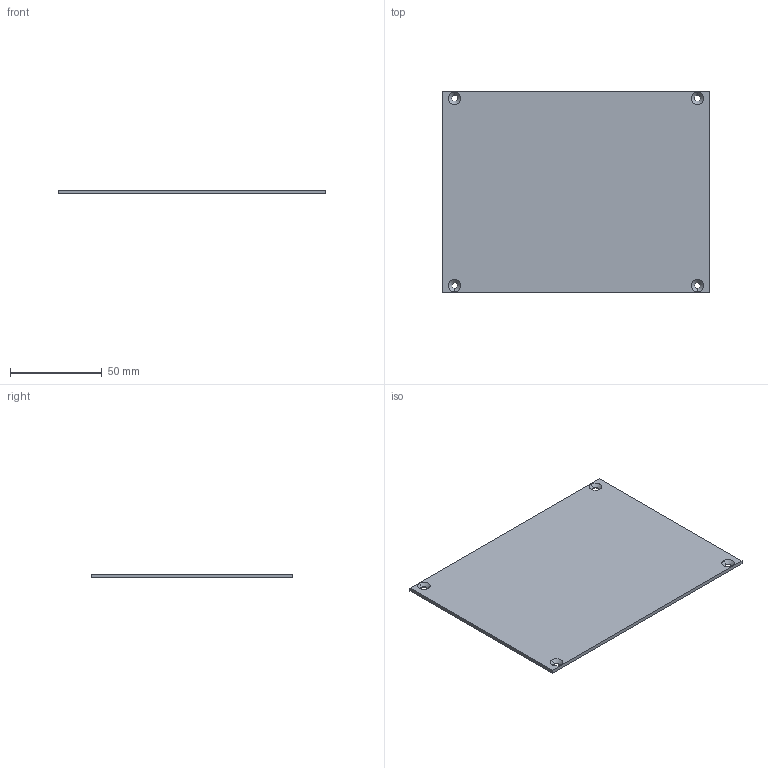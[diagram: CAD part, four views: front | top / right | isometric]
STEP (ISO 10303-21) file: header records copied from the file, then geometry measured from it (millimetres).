
FILE_DESCRIPTION((''),'2;1');
FILE_NAME('KD-B-202T_FRONT_TOP_COVER_1_1_1','2025-07-12T11:07:28',('Administrator'),(''),'CREO PARAMETRIC BY PTC INC, 2022073','CREO PARAMETRIC BY PTC INC, 2022073','');
FILE_SCHEMA(('CONFIG_CONTROL_DESIGN'));
Length unit declared in the file: millimetre
Products named in the file (1): KD-B-202T_FRONT_TOP_COVER_1_1_1
Bounding box: 145.7 x 109.6 x 2 mm (x, y, z)
Volume: 31786.2 mm3; surface area: 32945.6 mm2
Topology: 1 solids, 1 shells, 22 faces, 52 edges, 32 vertices
Faces by surface type: cylinder 8, cone 8, plane 6
Entity records: 690 total; most frequent: DIRECTION 120, CARTESIAN_POINT 106, ORIENTED_EDGE 104, EDGE_CURVE 52, AXIS2_PLACEMENT_3D 46, VERTEX_POINT 32, EDGE_LOOP 30, VECTOR 28
